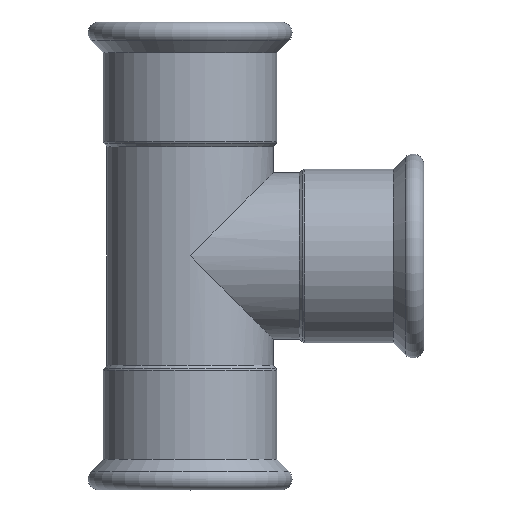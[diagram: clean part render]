
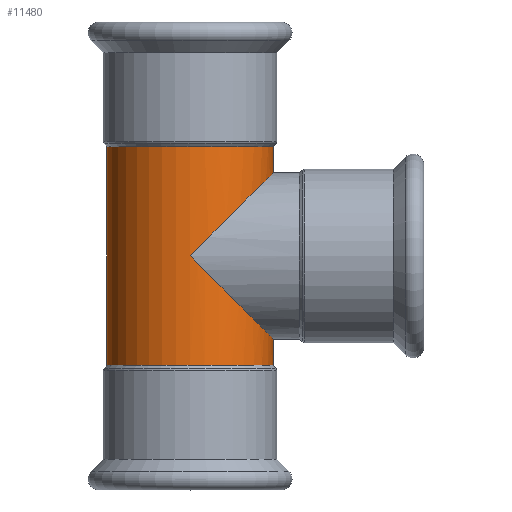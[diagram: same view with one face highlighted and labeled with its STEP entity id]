
A CAD part, top view. The second image highlights one B-rep face of the part: STEP entity #11480.
In plain terms, the highlighted cylindrical face has radius 54 mm (diameter 108 mm), a partial arc.
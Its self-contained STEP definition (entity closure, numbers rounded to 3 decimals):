
#520=CARTESIAN_POINT('',(-121.,71.,0.));
#530=VERTEX_POINT('',#520);
#710=CARTESIAN_POINT('',(-13.,71.,0.));
#720=VERTEX_POINT('',#710);
#750=CARTESIAN_POINT('',(-67.,71.,0.));
#760=DIRECTION('',(0.,1.,0.));
#770=DIRECTION('',(-1.,0.,0.));
#780=AXIS2_PLACEMENT_3D('',#750,#760,#770);
#790=CIRCLE('',#780,54.);
#800=EDGE_CURVE('',#530,#720,#790,.T.);
#900=CARTESIAN_POINT('',(-67.,0.,0.));
#910=DIRECTION('',(-0.707,0.707,0.));
#920=DIRECTION('',(-0.707,-0.707,0.));
#930=AXIS2_PLACEMENT_3D('',#900,#910,#920);
#940=ELLIPSE('',#930,76.368,54.);
#950=CARTESIAN_POINT('',(-67.,0.,54.));
#960=VERTEX_POINT('',#950);
#970=CARTESIAN_POINT('',(-13.,54.,0.));
#980=VERTEX_POINT('',#970);
#990=EDGE_CURVE('',#960,#980,#940,.T.);
#1220=CARTESIAN_POINT('',(-13.,-54.,0.));
#1230=VERTEX_POINT('',#1220);
#1260=CARTESIAN_POINT('',(-67.,0.,0.));
#1270=DIRECTION('',(-0.707,-0.707,0.));
#1280=DIRECTION('',(-0.707,0.707,0.));
#1290=AXIS2_PLACEMENT_3D('',#1260,#1270,#1280);
#1300=ELLIPSE('',#1290,76.368,54.);
#1310=EDGE_CURVE('',#1230,#960,#1300,.T.);
#4360=CARTESIAN_POINT('',(-67.,71.,0.));
#4370=DIRECTION('',(0.,-1.,0.));
#4380=DIRECTION('',(1.,0.,0.));
#4390=AXIS2_PLACEMENT_3D('',#4360,#4370,#4380);
#4400=CYLINDRICAL_SURFACE('',#4390,54.);
#4410=CARTESIAN_POINT('',(-13.,71.,0.));
#4420=DIRECTION('',(0.,-1.,0.));
#4430=VECTOR('',#4420,1.);
#4440=LINE('',#4410,#4430);
#4450=CARTESIAN_POINT('',(-13.,-71.,0.));
#4460=VERTEX_POINT('',#4450);
#4470=EDGE_CURVE('',#1230,#4460,#4440,.T.);
#4550=EDGE_CURVE('',#720,#980,#4440,.T.);
#4590=CARTESIAN_POINT('',(-121.,71.,0.));
#4600=DIRECTION('',(0.,-1.,0.));
#4610=VECTOR('',#4600,1.);
#4620=LINE('',#4590,#4610);
#4630=CARTESIAN_POINT('',(-121.,-71.,0.));
#4640=VERTEX_POINT('',#4630);
#4650=EDGE_CURVE('',#530,#4640,#4620,.T.);
#4670=CARTESIAN_POINT('',(-67.,-71.,0.));
#4680=DIRECTION('',(0.,-1.,0.));
#4690=DIRECTION('',(1.,0.,0.));
#4700=AXIS2_PLACEMENT_3D('',#4670,#4680,#4690);
#4710=CIRCLE('',#4700,54.);
#11380=ORIENTED_EDGE('',*,*,#4550,.F.);
#11390=ORIENTED_EDGE('',*,*,#990,.T.);
#11400=ORIENTED_EDGE('',*,*,#1310,.T.);
#11410=ORIENTED_EDGE('',*,*,#4470,.F.);
#11420=EDGE_CURVE('',#4460,#4640,#4710,.T.);
#11430=ORIENTED_EDGE('',*,*,#11420,.F.);
#11440=ORIENTED_EDGE('',*,*,#4650,.T.);
#11450=ORIENTED_EDGE('',*,*,#800,.F.);
#11460=EDGE_LOOP('',(#11450,#11440,#11430,#11410,#11400,#11390,#11380));
#11470=FACE_OUTER_BOUND('',#11460,.T.);
#11480=ADVANCED_FACE('',(#11470),#4400,.T.);
